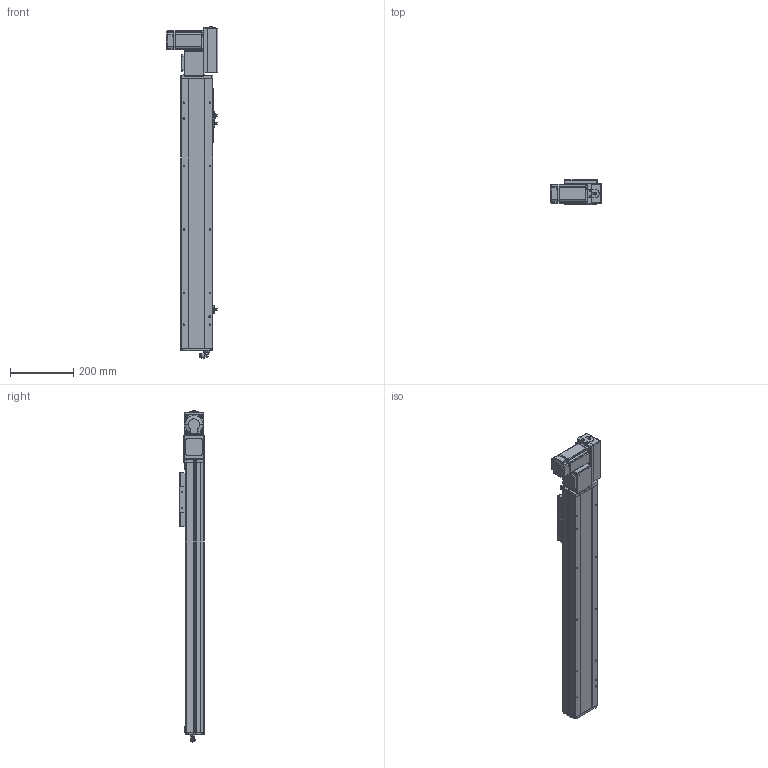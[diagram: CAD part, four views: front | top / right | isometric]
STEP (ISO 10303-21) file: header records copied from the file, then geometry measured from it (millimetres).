
FILE_DESCRIPTION (( 'STEP AP214' ), '1' );
FILE_NAME ('TPE10-L41.6-600-R-P20-C4.STEP', '2023-03-13T02:43:18', ( '' ), ( '' ), 'SwSTEP 2.0', 'SolidWorks 2020', '' );
FILE_SCHEMA (( 'AUTOMOTIVE_DESIGN' ));
Length unit declared in the file: millimetre
Products named in the file (16): 葩璃 詩湍75^TPE10-L41.6-R-P20-C4; 葩璃 PL8-02^TPE10-L41.6-R-P20-C4; 葩璃 TPE10-L-001 菁釱MZ-102A-01^TPE10-L41.6-R-P20-C4; 葩璃 侂狟400W^TPE10-L41.6-R-P20-C4; 葩璃 TPE10-L-002 耜裔ZTMT-102B-04^TPE10-L41.6-R-P20-C4; hex nuts, style 1-grades ab gb_GB_FASTENER_NUT_SNAB1 M3-N; hexagon head bolts-full thread gb_GB_FASTENER_BOLT_STBAB A M5X16-N; TPE10-L41.6-600-R-P20-C4; 葩璃 TPF10-L-008 耜醱啣^TPE10-L41.6-R-P20-C4; 葩璃 TPT10-L-009 萇儂啣^TPE10-L41.6-R-P20-C4_200W; 葩璃 TPE10-007 々湍釱MZ-169x88^TPE10-L41.6-R-P20-C4; 葩璃 侂狟100W^TPE10-L41.6-R-P20-C4; 葩璃 TPE10 賑雄殤 TPE10^TPE10-L41.6-R-P20-C4; 葩璃 pm-t65-672^TPE10-L41.6-R-P20-C4; 葩璃 TPF10 詩湍揤啣 TPF10 12^TPE10-L41.6-R-P20-C4; hexagon socket head cap screws gb_GB_FASTENER_SCREWS_HSHCS M3X6-N
Assembly tree (29 placements, depth 2):
  TPE10-L41.6-600-R-P20-C4
    葩璃 TPE10-L-001 菁釱MZ-102A-01^TPE10-L41.6-R-P20-C4
    葩璃 TPE10-L-002 耜裔ZTMT-102B-04^TPE10-L41.6-R-P20-C4  x2
    葩璃 詩湍75^TPE10-L41.6-R-P20-C4
    葩璃 TPE10-007 々湍釱MZ-169x88^TPE10-L41.6-R-P20-C4
    葩璃 TPF10-L-008 耜醱啣^TPE10-L41.6-R-P20-C4
    葩璃 TPE10 賑雄殤 TPE10^TPE10-L41.6-R-P20-C4
    葩璃 TPF10 詩湍揤啣 TPF10 12^TPE10-L41.6-R-P20-C4  x2
    葩璃 TPT10-L-009 萇儂啣^TPE10-L41.6-R-P20-C4_200W
    葩璃 pm-t65-672^TPE10-L41.6-R-P20-C4  x3
    葩璃 PL8-02^TPE10-L41.6-R-P20-C4
    葩璃 侂狟100W^TPE10-L41.6-R-P20-C4
    葩璃 侂狟400W^TPE10-L41.6-R-P20-C4
    hexagon socket head cap screws gb_GB_FASTENER_SCREWS_HSHCS M3X6-N  x6
    hex nuts, style 1-grades ab gb_GB_FASTENER_NUT_SNAB1 M3-N  x6
    hexagon head bolts-full thread gb_GB_FASTENER_BOLT_STBAB A M5X16-N
Bounding box: 162.5 x 78.5 x 1047 mm (x, y, z)
Volume: 3523415.1 mm3; surface area: 889443.4 mm2
Topology: 37 solids, 37 shells, 2021 faces, 5181 edges, 3294 vertices
Faces by surface type: plane 1106, cylinder 633, cone 212, bspline 42, torus 26, sphere 2
Entity records: 50460 total; most frequent: CARTESIAN_POINT 10452, DIRECTION 8104, ORIENTED_EDGE 7810, EDGE_CURVE 3905, AXIS2_PLACEMENT_3D 2844, VERTEX_POINT 2521, VECTOR 2416, LINE 2416
